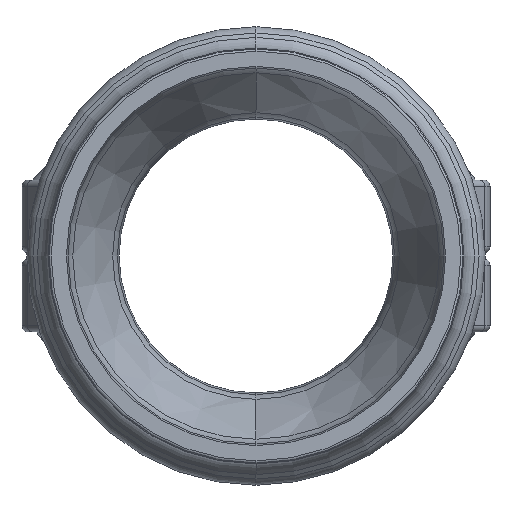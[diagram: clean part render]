
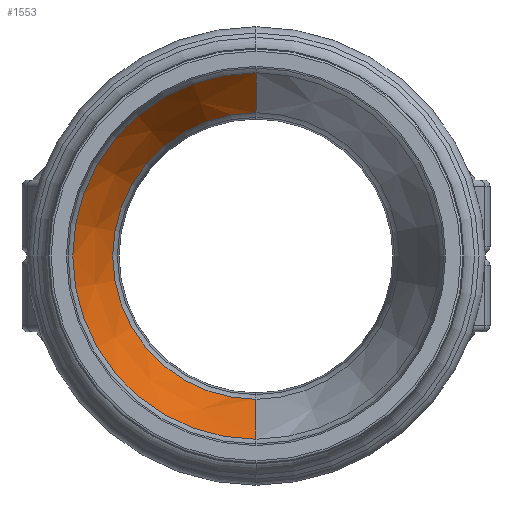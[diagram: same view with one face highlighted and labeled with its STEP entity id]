
A CAD part, left-side view. The second image highlights one B-rep face of the part: STEP entity #1553.
In plain terms, the highlighted conical face has half-angle 23.986 degrees and reference radius 26.86 mm.
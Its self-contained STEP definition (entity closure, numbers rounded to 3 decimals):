
#651=CARTESIAN_POINT('',(55.459,0.,0.));
#652=DIRECTION('',(1.,0.,0.));
#653=DIRECTION('',(0.,0.,-1.));
#654=AXIS2_PLACEMENT_3D('',#651,#652,#653);
#659=CARTESIAN_POINT('',(70.217,0.,0.));
#660=DIRECTION('',(-1.,0.,0.));
#661=DIRECTION('',(0.,0.,1.));
#662=AXIS2_PLACEMENT_3D('',#659,#660,#661);
#691=DIRECTION('',(-0.914,0.,0.407));
#692=VECTOR('',#691,16.153);
#693=CARTESIAN_POINT('',(70.217,0.,23.576));
#694=LINE('',#693,#692);
#698=DIRECTION('',(-0.914,0.,-0.407));
#699=VECTOR('',#698,16.153);
#700=CARTESIAN_POINT('',(70.217,0.,-23.576));
#701=LINE('',#700,#699);
#907=CARTESIAN_POINT('',(55.459,0.,
-30.143));
#909=VERTEX_POINT('',#907);
#913=CARTESIAN_POINT('',(55.459,0.,
30.143));
#914=VERTEX_POINT('',#913);
#915=CARTESIAN_POINT('',(70.217,0.,-23.576));
#916=VERTEX_POINT('',#915);
#917=CARTESIAN_POINT('',(70.217,0.,23.576));
#918=VERTEX_POINT('',#917);
#1539=CARTESIAN_POINT('',(62.838,0.,0.));
#1540=DIRECTION('',(-1.,0.,0.));
#1541=DIRECTION('',(0.,0.,1.));
#1542=AXIS2_PLACEMENT_3D('',#1539,#1540,#1541);
#1543=CONICAL_SURFACE('',#1542,26.86,23.986);
#1545=ORIENTED_EDGE('',*,*,#1544,.T.);
#1547=ORIENTED_EDGE('',*,*,#1546,.T.);
#1548=ORIENTED_EDGE('',*,*,#1529,.T.);
#1550=ORIENTED_EDGE('',*,*,#1549,.F.);
#1551=EDGE_LOOP('',(#1545,#1547,#1548,#1550));
#1552=FACE_OUTER_BOUND('',#1551,.F.);
#655=CIRCLE('',#654,30.143);
#663=CIRCLE('',#662,23.576);
#1529=EDGE_CURVE('',#909,#914,#655,.T.);
#1544=EDGE_CURVE('',#918,#916,#663,.T.);
#1546=EDGE_CURVE('',#916,#909,#701,.T.);
#1549=EDGE_CURVE('',#918,#914,#694,.T.);
#1553=ADVANCED_FACE('',(#1552),#1543,.F.);
